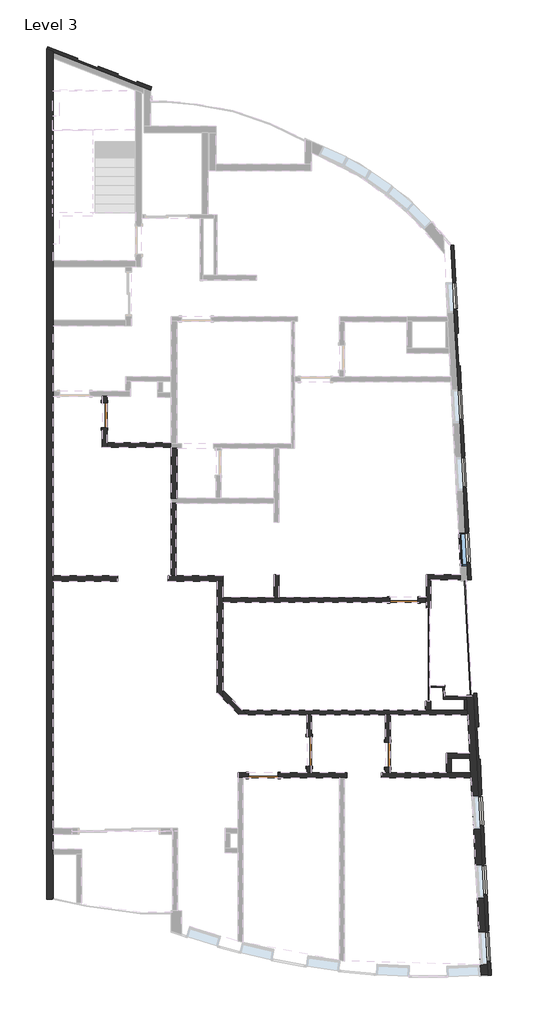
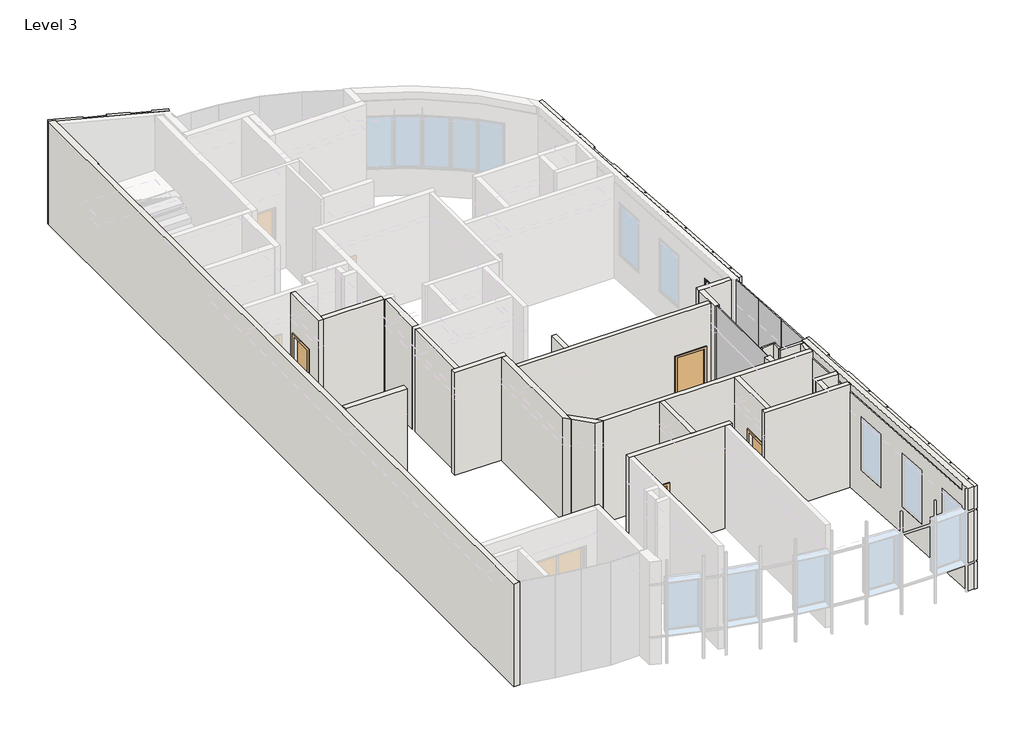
# One storey, part 2 of 5: 28 walls, 5 doors, 4 plates, 1 window.
"""IFC4 building model written with IfcOpenShell, lengths in millimetres."""

from ifc_helpers import new_model, si_unit, frame, origin, place, context, project, spatial, polyline, circle_curve, outline, extrude, faceted_brep, transform, mapped, element, save
from ifc_brep_helpers import plane_surface, cylinder_surface, revolved_surface, advanced_brep
from components import m_single_flush_0762_x_2134mm_8c18b9de, m_single_flush_0762_x_2134mm_1533e4c5, m_single_flush_0864_x_2032mm_5b632350, m_single_flush_0915_x_2134mm_138fd904, system_panel_glazed_de1ac752, system_panel_glazed_2b276406, system_panel_glazed_4e3138d7, wall_efae7c4e, wall_d5b73eeb, m_fixed_1000_x_1830mm_2_3397196e

model = new_model("IFC4")

# Units and contexts
model_context = context("Model", 3, world=origin())
ifc_project = project(units=[si_unit("LENGTHUNIT", "METRE", prefix="MILLI")], contexts=[model_context])

# Site, building, storey
site = spatial("IfcSite", under=ifc_project)
building = spatial("IfcBuilding", under=site)
storey = spatial("IfcBuildingStorey", under=building, Name="Level 3", Elevation=11500.0)

# Doors
placement = place(None, origin())
m_single_flush_0762_x_2134mm_shape = m_single_flush_0762_x_2134mm_8c18b9de(model_context)
element("IfcDoor", 1, ObjectType="M_Single-Flush : 0762 x 2134mm", at=placement, inside=storey, context=model_context, shape_type="MappedRepresentation", body=[
    mapped(m_single_flush_0762_x_2134mm_shape, transform((1524.9578776, 3975.8830582, 11500.0), x_axis=(0.0, 1.0, 0.0), y_axis=(-1.0, 0.0, 0.0), z_axis=(0.0, 0.0, 1.0))),
])
m_single_flush_0762_x_2134mm_2_shape = m_single_flush_0762_x_2134mm_1533e4c5(model_context)
element("IfcDoor", 2, ObjectType="M_Single-Flush : 0762 x 2134mm", at=placement, inside=storey, context=model_context, shape_type="MappedRepresentation", body=[
    mapped(m_single_flush_0762_x_2134mm_2_shape, transform((10205.2907737, -6412.7981953, 11500.0), x_axis=(0.0, -1.0, 0.0), y_axis=(1.0, 0.0, 0.0), z_axis=(0.0, 0.0, 1.0))),
])
m_single_flush_0864_x_2032mm_shape = m_single_flush_0864_x_2032mm_5b632350(model_context)
element("IfcDoor", 3, ObjectType="M_Single-Flush : 0864 x 2032mm", at=placement, inside=storey, context=model_context, shape_type="MappedRepresentation", body=[
    mapped(m_single_flush_0864_x_2032mm_shape, transform((10697.9578778, -1678.9547298, 11500.0), x_axis=(1.0, 0.0, 0.0), y_axis=(0.0, 1.0, 0.0), z_axis=(0.0, 0.0, 1.0))),
])
m_single_flush_0915_x_2134mm_shape = m_single_flush_0915_x_2134mm_138fd904(model_context)
element("IfcDoor", 4, ObjectType="M_Single-Flush : 0915 x 2134mm", at=placement, inside=storey, context=model_context, shape_type="MappedRepresentation", body=[
    mapped(m_single_flush_0915_x_2134mm_shape, transform((6387.7907737, -7048.7981953, 11500.0), x_axis=(-1.0, 0.0, 0.0), y_axis=(0.0, -1.0, 0.0), z_axis=(0.0, 0.0, 1.0))),
])
element("IfcDoor", 5, ObjectType="M_Single-Flush : 0915 x 2134mm", at=placement, inside=storey, context=model_context, shape_type="MappedRepresentation", body=[
    mapped(m_single_flush_0915_x_2134mm_shape, transform((7795.2909314, -6316.2981953, 11500.0), x_axis=(0.0, -1.0, 0.0), y_axis=(1.0, 0.0, 0.0), z_axis=(0.0, 0.0, 1.0))),
])

# Plates
system_panel_glazed_shape = system_panel_glazed_de1ac752(model_context)
element("IfcPlate", 6, ObjectType="System Panel : Glazed", at=placement, inside=storey, context=model_context, shape_type="MappedRepresentation", body=[
    mapped(system_panel_glazed_shape, transform((12744.4041239, -4004.5629241, 11500.0), x_axis=(-0.05083502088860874, 0.9987070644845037, 0.0), y_axis=(-0.9987070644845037, -0.05083502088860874, 0.0), z_axis=(0.0, 0.0, 1.0))),
])
element("IfcPlate", 7, ObjectType="System Panel : Glazed", at=placement, inside=storey, context=model_context, shape_type="MappedRepresentation", body=[
    mapped(system_panel_glazed_shape, transform((12685.4354997, -2846.0627293, 11500.0), x_axis=(-0.05083502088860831, 0.9987070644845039, 0.0), y_axis=(-0.9987070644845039, -0.05083502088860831, 0.0), z_axis=(0.0, 0.0, 1.0))),
])
system_panel_glazed_2_shape = system_panel_glazed_2b276406(model_context)
element("IfcPlate", 8, ObjectType="System Panel : Glazed", at=placement, inside=storey, context=model_context, shape_type="MappedRepresentation", body=[
    mapped(system_panel_glazed_2_shape, transform((12626.3225461, -1684.727034, 11500.0), x_axis=(-0.05083502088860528, 0.998707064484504, 0.0), y_axis=(-0.998707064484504, -0.05083502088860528, 0.0), z_axis=(0.0, 0.0, 1.0))),
])
system_panel_glazed_3_shape = system_panel_glazed_4e3138d7(model_context)
element("IfcPlate", 9, ObjectType="System Panel : Glazed", at=placement, inside=storey, context=model_context, shape_type="MappedRepresentation", body=[
    mapped(system_panel_glazed_3_shape, transform((11490.9685725, -3358.899384, 11500.0), x_axis=(0.0, 1.0, 0.0), y_axis=(-1.0, 0.0, 0.0), z_axis=(0.0, 0.0, 1.0))),
])

# Walls
element("IfcWall", 10, ObjectType="Generic - 15cm-gypsu-2boith", at=placement, inside=storey, context=model_context, shape_type="Brep", body=[
    faceted_brep([(11349.9578778, -1603.9547298, 11500.0), (11129.9578778, -1603.9547298, 11500.0), (11129.9578778, -1603.9547298, 13532.0), (10265.9578778, -1603.9547298, 13532.0), (10265.9578778, -1603.9547298, 11500.0), (6869.9578779, -1603.9547298, 11500.0), (6719.9578779, -1603.9547298, 11500.0), (5149.9578778, -1603.9547298, 11500.0), (5149.9578778, -1603.9547298, 15000.0), (6719.9578779, -1603.9547298, 15000.0), (6869.9578779, -1603.9547298, 15000.0), (11349.9578778, -1603.9547298, 15000.0), (11129.9578778, -1753.9547298, 13532.0), (11129.9578778, -1753.9547298, 11500.0), (11349.9578778, -1753.9547298, 11500.0), (11349.9578778, -1753.9547298, 15000.0), (5149.9578778, -1753.9547298, 15000.0), (5149.9578778, -1753.9547298, 11500.0), (10265.9578778, -1753.9547298, 11500.0), (10265.9578778, -1753.9547298, 13532.0)], [[[0, 1, 2, 3, 4, 5, 6, 7, 8, 9, 10, 11]], [[12, 13, 14, 15, 16, 17, 18, 19]], [[18, 17, 7, 6, 5, 4]], [[14, 13, 1, 0]], [[11, 10, 9, 8, 16, 15]], [[0, 11, 15, 14]], [[8, 7, 17, 16]], [[2, 1, 13, 12]], [[3, 2, 12, 19]], [[4, 3, 19, 18]]]),
])
element("IfcWall", 11, ObjectType="Generic - 15cm-gypsu-2boith", at=placement, inside=storey, context=model_context, shape_type="Brep", body=[
    faceted_brep([(12423.9334548, -903.8603265, 11500.0), (11379.9578778, -903.8603265, 11500.0), (11379.9578778, -903.8603265, 15000.0), (12423.9334548, -903.8603265, 15000.0), (12423.9334548, -1053.8603265, 11500.0), (12423.9334548, -1053.8603265, 15000.0), (11529.9578778, -1053.8603265, 15000.0), (11379.9578778, -1053.8603265, 15000.0), (11379.9578778, -1053.8603265, 11500.0), (11529.9578778, -1053.8603265, 11500.0)], [[[0, 1, 2, 3]], [[4, 5, 6, 7, 8, 9]], [[1, 0, 4, 9, 8]], [[3, 2, 7, 6, 5]], [[0, 3, 5, 4]], [[2, 1, 8, 7]]]),
])
element("IfcWall", 12, ObjectType="Generic - 15cm-gypsu-2boith", at=placement, inside=storey, context=model_context, shape_type="SweptSolid", body=[
    extrude(outline(polyline([(11379.9578778, -1933.9547288), (11379.9578778, -1053.8603265), (11529.9578778, -1053.8603265), (11529.9578778, -1933.9547288), (11379.9578778, -1933.9547288)])), frame((0.0, 0.0, 11500.0), z_axis=(0.0, 0.0, 1.0), x_axis=(1.0, 0.0, 0.0)), (0.0, 0.0, 1.0), 3500.0),
])
element("IfcWall", 13, ObjectType="Generic - 15cm-gypsu-2boith", at=placement, inside=storey, context=model_context, shape_type="SweptSolid", body=[
    extrude(outline(polyline([(3569.9578779, -933.1221936), (3569.9578779, 1276.8778064), (3719.9578779, 1276.8778064), (3719.9578779, -933.1221936), (3569.9578779, -933.1221936)])), frame((0.0, 0.0, 11500.0), z_axis=(0.0, 0.0, 1.0), x_axis=(1.0, 0.0, 0.0)), (0.0, 0.0, 1.0), 3500.0),
])
element("IfcWall", 14, ObjectType="Generic - 18cm-gypsu-2boith 2", at=placement, inside=storey, context=model_context, shape_type="Brep", body=[
    faceted_brep([(5149.9578778, -933.1221936, 11500.0), (3719.9578779, -933.1221936, 11500.0), (3569.9578779, -933.1221936, 11500.0), (3473.9578779, -933.1221936, 11500.0), (3473.9578779, -933.1221936, 15000.0), (3569.9578779, -933.1221936, 15000.0), (3719.9578779, -933.1221936, 15000.0), (5149.9578778, -933.1221936, 15000.0), (5149.9578778, -1113.1221936, 11500.0), (5149.9578778, -1113.1221936, 15000.0), (4969.9578778, -1113.1221936, 15000.0), (3473.9578779, -1113.1221936, 15000.0), (3473.9578779, -1113.1221936, 11500.0), (4969.9578778, -1113.1221936, 11500.0)], [[[0, 1, 2, 3, 4, 5, 6, 7]], [[8, 9, 10, 11, 12, 13]], [[3, 2, 1, 0, 8, 13, 12]], [[4, 3, 12, 11]], [[7, 6, 5, 4, 11, 10, 9]], [[0, 7, 9, 8]]]),
])
element("IfcWall", 15, ObjectType="Generic - 18cm-gypsu-2boith 2", at=placement, inside=storey, context=model_context, shape_type="Brep", body=[
    faceted_brep([(4969.9578778, -1113.1221936, 11500.0), (4969.9578778, -4517.9715169, 11500.0), (4969.9578778, -4517.9715169, 15000.0), (4969.9578778, -1113.1221936, 15000.0), (5149.9578778, -1113.1221936, 11500.0), (5149.9578778, -1113.1221936, 15000.0), (5149.9578778, -1603.9547298, 15000.0), (5149.9578778, -1753.9547298, 15000.0), (5149.9578778, -4443.9569428, 15000.0), (5149.9578778, -4699.8400417, 15000.0), (5149.9578778, -4699.8400417, 11500.0), (5149.9578778, -4443.9569428, 11500.0), (5149.9578778, -1753.9547298, 11500.0), (5149.9578778, -1603.9547298, 11500.0)], [[[0, 1, 2, 3]], [[4, 5, 6, 7, 8, 9, 10, 11, 12, 13]], [[1, 0, 4, 13, 12, 11, 10]], [[3, 2, 9, 8, 7, 6, 5]], [[2, 1, 10, 9]], [[0, 3, 5, 4]]]),
])
element("IfcWall", 16, ObjectType="Generic - 18cm-gypsu-2boith 2", at=placement, inside=storey, context=model_context, shape_type="Brep", body=[
    faceted_brep([(5149.9578778, -4699.8400417, 11500.0), (5643.7897147, -5198.7981953, 11500.0), (5643.7897147, -5198.7981953, 15000.0), (5149.9578778, -4699.8400417, 15000.0), (5149.9578778, -4443.9569428, 11500.0), (5149.9578778, -4443.9569428, 15000.0), (5748.5849662, -5048.7981953, 15000.0), (5897.04386, -5198.7981953, 15000.0), (5897.04386, -5198.7981953, 11500.0), (5748.5849662, -5048.7981953, 11500.0)], [[[0, 1, 2, 3]], [[4, 5, 6, 7, 8, 9]], [[1, 0, 4, 9, 8]], [[3, 2, 7, 6, 5]], [[0, 3, 5, 4]], [[2, 1, 8, 7]]]),
])
element("IfcWall", 17, ObjectType="Generic - 15cm-granit&gypsum", at=placement, inside=storey, context=model_context, shape_type="Brep", body=[
    faceted_brep([(12647.2976465, -5048.7981953, 11500.0), (12641.1322496, -5048.7981953, 11500.0), (12541.1322496, -5048.7981953, 11500.0), (11529.9578778, -5048.7981953, 11500.0), (11349.9578778, -5048.7981953, 11500.0), (5748.5849662, -5048.7981953, 11500.0), (5748.5849662, -5048.7981953, 15000.0), (11349.9578778, -5048.7981953, 15000.0), (11529.9578778, -5048.7981953, 15000.0), (12541.1322496, -5048.7981953, 15000.0), (12641.1322496, -5048.7981953, 15000.0), (12647.2976465, -5048.7981953, 15000.0), (12654.9327714, -5198.7981953, 11500.0), (12654.9327714, -5198.7981953, 15000.0), (10280.2907737, -5198.7981953, 15000.0), (10130.2907737, -5198.7981953, 15000.0), (7870.2909314, -5198.7981953, 15000.0), (7720.2909314, -5198.7981953, 15000.0), (5897.04386, -5198.7981953, 15000.0), (5897.04386, -5198.7981953, 11500.0), (7720.2909314, -5198.7981953, 11500.0), (7870.2909314, -5198.7981953, 11500.0), (10130.2907737, -5198.7981953, 11500.0), (10280.2907737, -5198.7981953, 11500.0)], [[[0, 1, 2, 3, 4, 5, 6, 7, 8, 9, 10, 11]], [[12, 13, 14, 15, 16, 17, 18, 19, 20, 21, 22, 23]], [[5, 4, 3, 2, 1, 0, 12, 23, 22, 21, 20, 19]], [[11, 10, 9, 8, 7, 6, 18, 17, 16, 15, 14, 13]], [[6, 5, 19, 18]], [[0, 11, 13, 12]]]),
])
element("IfcWall", 18, ObjectType="Generic - 15cm-gypsu-2boith", at=placement, inside=storey, context=model_context, shape_type="SweptSolid", body=[
    extrude(outline(polyline([(-6773.7981953, 13634.0), (-6773.7981953, 11500.0), (-6973.7981953, 11500.0), (-6973.7981953, 15000.0), (-5198.7981953, 15000.0), (-5198.7981953, 11500.0), (-5858.7981953, 11500.0), (-5858.7981953, 13634.0), (-6773.7981953, 13634.0)])), frame((7720.2909314, 0.0, 0.0), z_axis=(1.0, 0.0, 0.0), x_axis=(0.0, 1.0, 0.0)), (0.0, 0.0, 1.0), 150.0),
])
element("IfcWall", 19, ObjectType="Generic - 15cm-granit&gypsum", at=placement, inside=storey, context=model_context, shape_type="Brep", body=[
    faceted_brep([(12745.2817489, -6973.7981953, 11500.0), (12147.4732011, -6973.7981953, 11500.0), (11997.4732011, -6973.7981953, 11500.0), (10280.2907737, -6973.7981953, 11500.0), (10130.2907737, -6973.7981953, 11500.0), (10005.6168737, -6973.7981953, 11500.0), (10005.6168737, -6973.7981953, 15000.0), (10130.2907737, -6973.7981953, 15000.0), (10280.2907737, -6973.7981953, 15000.0), (11997.4732011, -6973.7981953, 15000.0), (12147.4732011, -6973.7981953, 15000.0), (12745.2817489, -6973.7981953, 15000.0), (12752.9168737, -7123.7981953, 11500.0), (12752.9168737, -7123.7981953, 15000.0), (10005.6168737, -7123.7981953, 15000.0), (10005.6168737, -7123.7981953, 11500.0)], [[[0, 1, 2, 3, 4, 5, 6, 7, 8, 9, 10, 11]], [[12, 13, 14, 15]], [[5, 4, 3, 2, 1, 0, 12, 15]], [[6, 5, 15, 14]], [[11, 10, 9, 8, 7, 6, 14, 13]], [[0, 11, 13, 12]]]),
])
element("IfcWall", 20, ObjectType="Generic - 15cm-gypsu-2boith", at=placement, inside=storey, context=model_context, shape_type="Brep", body=[
    faceted_brep([(12714.7412494, -6373.7981953, 11500.0), (11997.4732011, -6373.7981953, 11500.0), (11997.4732011, -6373.7981953, 15000.0), (12714.7412494, -6373.7981953, 15000.0), (12722.3763743, -6523.7981953, 11500.0), (12722.3763743, -6523.7981953, 15000.0), (12147.4732011, -6523.7981953, 15000.0), (11997.4732011, -6523.7981953, 15000.0), (11997.4732011, -6523.7981953, 11500.0), (12147.4732011, -6523.7981953, 11500.0)], [[[0, 1, 2, 3]], [[4, 5, 6, 7, 8, 9]], [[1, 0, 4, 9, 8]], [[3, 2, 7, 6, 5]], [[0, 3, 5, 4]], [[2, 1, 8, 7]]]),
])
element("IfcWall", 21, ObjectType="Generic - 15cm-gypsu-2boith", at=placement, inside=storey, context=model_context, shape_type="SweptSolid", body=[
    extrude(outline(polyline([(11997.4732011, -6973.7981953), (11997.4732011, -6523.7981953), (12147.4732011, -6523.7981953), (12147.4732011, -6973.7981953), (11997.4732011, -6973.7981953)])), frame((0.0, 0.0, 11500.0), z_axis=(0.0, 0.0, 1.0), x_axis=(1.0, 0.0, 0.0)), (0.0, 0.0, 1.0), 3500.0),
])
element("IfcWall", 22, ObjectType="Generic - 10cm-gypsu-2boith", at=placement, inside=storey, context=model_context, shape_type="Brep", body=[
    faceted_brep([(11904.953185, -4724.0941461, 11500.0), (12541.1322496, -4725.6672919, 11500.0), (12641.1322496, -4725.9145722, 11500.0), (12641.1322496, -4725.9145722, 15000.0), (12541.1322496, -4725.6672919, 15000.0), (11904.953185, -4724.0941461, 15000.0), (11899.8624455, -4624.081252, 11500.0), (11899.8624455, -4624.081252, 15000.0), (11949.9334783, -4624.2050678, 15000.0), (12641.1322496, -4625.9142665, 15000.0), (12641.1322496, -4625.9142665, 11500.0), (11949.9334783, -4624.2050678, 11500.0)], [[[0, 1, 2, 3, 4, 5]], [[6, 7, 8, 9, 10, 11]], [[2, 1, 0, 6, 11, 10]], [[5, 4, 3, 9, 8, 7]], [[3, 2, 10, 9]], [[0, 5, 7, 6]]]),
])
element("IfcWall", 23, ObjectType="Generic - 10cm-gypsu-2boith", at=placement, inside=storey, context=model_context, shape_type="Brep", body=[
    faceted_brep([(12641.1322496, -5048.7981953, 11500.0), (12641.1322496, -4927.672536, 11500.0), (12641.1322496, -4725.9145722, 11500.0), (12641.1322496, -4725.9145722, 14759.0), (12641.1322496, -4725.9145722, 15000.0), (12641.1322496, -5048.7981953, 15000.0), (12541.1322496, -5048.7981953, 11500.0), (12541.1322496, -5048.7981953, 15000.0), (12541.1322496, -4725.6672919, 15000.0), (12541.1322496, -4725.6672919, 11500.0), (12630.8613086, -4725.8891742, 11500.0)], [[[0, 1, 2, 3, 4, 5]], [[6, 7, 8, 9]], [[2, 1, 0, 6, 9, 10]], [[5, 4, 8, 7]], [[4, 3, 2, 10, 9, 8]], [[0, 5, 7, 6]]]),
])
element("IfcWall", 24, ObjectType="Antick", at=placement, inside=storey, context=model_context, shape_type="SweptSolid", body=[
    extrude(outline(polyline([(11899.8624455, -4624.081252), (11885.9208288, -4350.1836358), (11935.856182, -4347.6418848), (11949.9334783, -4624.2050678), (11899.8624455, -4624.081252)])), frame((0.0, 0.0, 11500.0), z_axis=(0.0, 0.0, 1.0), x_axis=(1.0, 0.0, 0.0)), (0.0, 0.0, 1.0), 3500.0),
])
element("IfcWall", 25, ObjectType="Antick", at=placement, inside=storey, context=model_context, shape_type="Brep", body=[
    faceted_brep([(11506.4121443, -4369.5009438, 11500.0), (11885.9208288, -4350.1836358, 11500.0), (11935.856182, -4347.6418848, 11500.0), (11955.8303233, -4346.6251844, 11500.0), (11955.8303233, -4346.6251844, 15000.0), (11935.856182, -4347.6418848, 15000.0), (11885.9208288, -4350.1836358, 15000.0), (11506.4121443, -4369.5009438, 15000.0), (11503.8703933, -4319.5655905, 11500.0), (11503.8703933, -4319.5655905, 15000.0), (11953.2885723, -4296.6898311, 15000.0), (11953.2885723, -4296.6898311, 11500.0)], [[[0, 1, 2, 3, 4, 5, 6, 7]], [[8, 9, 10, 11]], [[3, 2, 1, 0, 8, 11]], [[4, 3, 11, 10]], [[7, 6, 5, 4, 10, 9]], [[0, 7, 9, 8]]]),
])
element("IfcWall", 26, ObjectType="Generic - 18cm-gypsu-2boith 2", at=placement, inside=storey, context=model_context, shape_type="SweptSolid", body=[
    extrude(outline(polyline([(11529.9578778, -4783.8440392), (11529.9578778, -5048.7981953), (11349.9578778, -5048.7981953), (11349.9578778, -4783.8440392), (11529.9578778, -4783.8440392)])), frame((0.0, 0.0, 11500.0), z_axis=(0.0, 0.0, 1.0), x_axis=(1.0, 0.0, 0.0)), (0.0, 0.0, 1.0), 3500.0),
])
element("IfcWall", 27, ObjectType="Generic - 15cm-granit&gypsum", at=placement, inside=storey, context=model_context, shape_type="Brep", body=[
    faceted_brep([(1599.9578776, 4356.8830582, 13634.0), (1599.9578776, 4356.8830582, 11500.0), (1599.9578776, 4556.8830582, 11500.0), (1599.9578776, 4556.8830582, 15000.0), (1599.9578776, 3136.8778064, 15000.0), (1599.9578776, 2986.8778064, 15000.0), (1599.9578776, 2986.8778064, 11500.0), (1599.9578776, 3136.8778064, 11500.0), (1599.9578776, 3594.8830582, 11500.0), (1599.9578776, 3594.8830582, 13634.0), (1449.9578776, 4556.8830582, 11500.0), (1449.9578776, 4356.8830582, 11500.0), (1449.9578776, 4356.8830582, 13634.0), (1449.9578776, 3594.8830582, 13634.0), (1449.9578776, 3594.8830582, 11500.0), (1449.9578776, 2986.8778064, 11500.0), (1449.9578776, 2986.8778064, 15000.0), (1449.9578776, 4556.8830582, 15000.0)], [[[0, 1, 2, 3, 4, 5, 6, 7, 8, 9]], [[10, 11, 12, 13, 14, 15, 16, 17]], [[2, 1, 11, 10]], [[8, 7, 6, 15, 14]], [[5, 4, 3, 17, 16]], [[3, 2, 10, 17]], [[6, 5, 16, 15]], [[12, 11, 1, 0]], [[13, 12, 0, 9]], [[14, 13, 9, 8]]]),
])
element("IfcWall", 28, ObjectType="Generic - 18cm-gypsu-2boith 2", at=placement, inside=storey, context=model_context, shape_type="SweptSolid", body=[
    extrude(outline(polyline([(3569.9578779, 1426.8778064), (3569.9578779, 2956.8778064), (3749.9578779, 2956.8778064), (3749.9578779, 1426.8778064), (3569.9578779, 1426.8778064)])), frame((0.0, 0.0, 11500.0), z_axis=(0.0, 0.0, 1.0), x_axis=(1.0, 0.0, 0.0)), (0.0, 0.0, 1.0), 3500.0),
])
element("IfcWall", 29, ObjectType="Generic - 15cm-granit&gypsum", at=placement, inside=storey, context=model_context, shape_type="SweptSolid", body=[
    extrude(outline(polyline([(1599.9578776, 3136.8778064), (3549.9578779, 3136.8778064), (3549.9578779, 2986.8778064), (1599.9578776, 2986.8778064), (1599.9578776, 3136.8778064)])), frame((0.0, 0.0, 11500.0), z_axis=(0.0, 0.0, 1.0), x_axis=(1.0, 0.0, 0.0)), (0.0, 0.0, 1.0), 3500.0),
])
element("IfcWall", 30, ObjectType="Generic - 18cm-gypsu-2boith 2", at=placement, inside=storey, context=model_context, shape_type="SweptSolid", body=[
    extrude(outline(polyline([(-50.0421304, -933.1221936), (1933.9578781, -933.1221936), (1933.9578781, -1113.1221936), (-50.0421304, -1113.1221936), (-50.0421304, -933.1221936)])), frame((0.0, 0.0, 11500.0), z_axis=(0.0, 0.0, 1.0), x_axis=(1.0, 0.0, 0.0)), (0.0, 0.0, 1.0), 3500.0),
])
element("IfcWall", 31, ObjectType="Generic - 15cm-granit&gypsum", at=placement, inside=storey, context=model_context, shape_type="Brep", body=[
    faceted_brep([(5930.2907737, -6973.7981953, 13634.0), (5930.2907737, -6973.7981953, 11500.0), (5620.2907737, -6973.7981953, 11500.0), (5620.2907737, -6973.7981953, 15000.0), (7720.2909314, -6973.7981953, 15000.0), (7870.2909314, -6973.7981953, 15000.0), (8947.5168737, -6973.7981953, 15000.0), (8947.5168737, -6973.7981953, 11500.0), (7870.2909314, -6973.7981953, 11500.0), (7720.2909314, -6973.7981953, 11500.0), (6845.2907737, -6973.7981953, 11500.0), (6845.2907737, -6973.7981953, 13634.0), (5620.2907737, -7123.7981953, 11500.0), (5770.2907737, -7123.7981953, 11500.0), (5930.2907737, -7123.7981953, 11500.0), (5930.2907737, -7123.7981953, 13634.0), (6845.2907737, -7123.7981953, 13634.0), (6845.2907737, -7123.7981953, 11500.0), (8720.2907737, -7123.7981953, 11500.0), (8870.2907737, -7123.7981953, 11500.0), (8947.5168737, -7123.7981953, 11500.0), (8947.5168737, -7123.7981953, 15000.0), (8870.2907737, -7123.7981953, 15000.0), (8720.2907737, -7123.7981953, 15000.0), (5770.2907737, -7123.7981953, 15000.0), (5620.2907737, -7123.7981953, 15000.0)], [[[0, 1, 2, 3, 4, 5, 6, 7, 8, 9, 10, 11]], [[12, 13, 14, 15, 16, 17, 18, 19, 20, 21, 22, 23, 24, 25]], [[2, 1, 14, 13, 12]], [[10, 9, 8, 7, 20, 19, 18, 17]], [[6, 5, 4, 3, 25, 24, 23, 22, 21]], [[7, 6, 21, 20]], [[3, 2, 12, 25]], [[17, 16, 11, 10]], [[16, 15, 0, 11]], [[15, 14, 1, 0]]]),
])
element("IfcWall", 32, ObjectType="Generic - 15cm-granit&gypsum", at=placement, inside=storey, context=model_context, shape_type="SweptSolid", body=[
    extrude(outline(polyline([(6719.9578779, -1603.9547298), (6719.9578779, -903.9547298), (6869.9578779, -903.9547298), (6869.9578779, -1603.9547298), (6719.9578779, -1603.9547298)])), frame((0.0, 0.0, 11500.0), z_axis=(0.0, 0.0, 1.0), x_axis=(1.0, 0.0, 0.0)), (0.0, 0.0, 1.0), 3500.0),
])
wall_shape = wall_efae7c4e(model_context)
element("IfcWall", 33, ObjectType="kamposite1 : kamposite", at=placement, inside=storey, context=model_context, shape_type="MappedRepresentation", body=[
    mapped(wall_shape, transform((-2.0334008, 39.9482826, 2000.0), x_axis=(1.0, 0.0, 0.0), y_axis=(0.0, 1.0, 0.0), z_axis=(0.0, 0.0, 1.0))),
])
wall_2_shape = wall_d5b73eeb(model_context)
element("IfcWall", 34, ObjectType="kamposite3 : kamposite2", at=placement, inside=storey, context=model_context, shape_type="MappedRepresentation", body=[
    mapped(wall_2_shape, transform((0.0, 0.0, 2000.0), x_axis=(1.0, 0.0, 0.0), y_axis=(0.0, 1.0, 0.0), z_axis=(0.0, 0.0, 1.0))),
])
element("IfcWall", 35, ObjectType="Generic - 15cm-granit 2", at=placement, inside=storey, context=model_context, shape_type="SweptSolid", body=[
    extrude(outline(polyline([(-6793.7981953, 13634.0), (-6793.7981953, 11500.0), (-6973.7981953, 11500.0), (-6973.7981953, 15000.0), (-5198.7981953, 15000.0), (-5198.7981953, 11500.0), (-6031.7981953, 11500.0), (-6031.7981953, 13634.0), (-6793.7981953, 13634.0)])), frame((10130.2907737, 0.0, 0.0), z_axis=(1.0, 0.0, 0.0), x_axis=(0.0, 1.0, 0.0)), (0.0, 0.0, 1.0), 150.0),
])
element("IfcWall", 36, ObjectType="Generic - 20cm-gypsum", at=placement, inside=storey, context=model_context, shape_type="Brep", body=[
    faceted_brep([(-50.0421304, -10845.40247, 11500.0), (-50.0421304, -9462.1185157, 11500.0), (-50.0421304, -9312.1185157, 11500.0), (-50.0421304, -8842.2362629, 11500.0), (-50.0421304, -8662.2362629, 11500.0), (-50.0421304, -1113.1221936, 11500.0), (-50.0421304, -933.1221936, 11500.0), (-50.0421304, 4556.8830582, 11500.0), (-50.0421304, 4706.8830582, 11500.0), (-50.0421304, 6706.8748838, 11500.0), (-50.0421304, 6886.8748838, 11500.0), (-50.0421304, 8516.8748746, 11500.0), (-50.0421304, 8696.8748746, 11500.0), (-50.0421304, 14901.0479686, 11500.0), (-50.0421304, 15115.5710671, 11500.0), (-50.0421304, 15115.5710671, 15000.0), (-50.0421304, 14901.0479686, 15000.0), (-50.0421304, 12688.8107611, 15000.0), (-50.0421304, 12688.8107611, 14759.0), (-50.0421304, -10787.9093736, 14759.0), (-50.0421304, -10787.9093736, 15000.0), (-50.0421304, -10845.40247, 15000.0), (-250.0421304, 15193.1607555, 11500.0), (-250.0421304, -10845.40247, 11500.0), (-250.0421304, -10845.40247, 15000.0), (-250.0421304, 15193.1607555, 15000.0), (-80.0421304, -10781.5326767, 15000.0), (-80.0421304, 12688.8107611, 15000.0), (-80.0421304, 12688.8107611, 14759.0), (-80.0421304, -10781.5326767, 14759.0)], [[[0, 1, 2, 3, 4, 5, 6, 7, 8, 9, 10, 11, 12, 13, 14, 15, 16, 17, 18, 19, 20, 21]], [[22, 23, 24, 25]], [[14, 13, 12, 11, 10, 9, 8, 7, 6, 5, 4, 3, 2, 1, 0, 23, 22]], [[25, 24, 21, 20, 26, 27, 17, 16, 15]], [[0, 21, 24, 23]], [[15, 14, 22, 25]], [[28, 29, 19, 18]], [[29, 26, 20, 19]], [[29, 28, 27, 26]], [[27, 28, 18, 17]]]),
])
element("IfcWall", 37, ObjectType="Generic - 20cm-gypsum", at=placement, inside=storey, context=model_context, shape_type="AdvancedBrep", body=[
    advanced_brep(
    [(12624.0178131, -4591.441561, 11500.0), (12630.8613086, -4725.8891742, 11500.0), (12630.8613086, -4725.8891742, 14759.0), (12624.0178131, -4591.441561, 14759.0), (12641.1322496, -4927.672536, 11500.0), (12647.2976465, -5048.7981953, 11500.0), (12654.9327714, -5198.7981953, 11500.0), (12714.7412494, -6373.7981953, 11500.0), (12722.3763743, -6523.7981953, 11500.0), (12745.2817489, -6973.7981953, 11500.0), (12752.9168737, -7123.7981953, 11500.0), (13044.0399551, -12843.2151043, 11500.0), (13060.3079076, -13162.8160173, 11500.0), (13060.3079076, -13162.8160173, 12401.1018524), (13059.0369746, -13137.84721, 12401.1018524), (13059.0369746, -13137.84721, 12451.1018524), (13060.3079076, -13162.8160173, 12451.1018524), (13060.3079076, -13162.8160173, 14195.0), (13059.0369746, -13137.84721, 14195.0), (13059.0369746, -13137.84721, 14245.0), (13060.3079076, -13162.8160173, 14245.0), (13060.3079076, -13162.8160173, 15000.0), (13045.5650765, -12873.1777067, 15000.0), (13045.5650765, -12873.1777067, 14759.0), (13044.0399551, -12843.2151043, 14759.0), (12641.1322496, -4927.672536, 14759.0), (13044.1204917, -12844.7973291, 12400.0), (12993.2854708, -11846.0902646, 12400.0), (12993.2854708, -11846.0902646, 14230.0), (13044.1204917, -12844.7973291, 14230.0), (12939.9086989, -10797.4478469, 12400.0), (12889.073678, -9798.7407824, 12400.0), (12889.073678, -9798.7407824, 14230.0), (12939.9086989, -10797.4478469, 14230.0), (12832.6468048, -8690.1759409, 12400.0), (12781.8117839, -7691.4688764, 12400.0), (12781.8117839, -7691.4688764, 14230.0), (12832.6468048, -8690.1759409, 14230.0), (12823.759226, -4581.2745568, 15000.0), (13259.9103282, -13149.9183632, 15000.0), (13259.9103282, -13149.9183632, 14245.0), (13258.6392504, -13124.9467139, 14245.0), (13258.6392504, -13124.9467139, 14195.0), (13259.9103282, -13149.9183632, 14195.0), (13259.9103282, -13149.9183632, 12451.1018524), (13258.6392504, -13124.9467139, 12451.1018524), (13258.6392504, -13124.9467139, 12401.1018524), (13259.9103282, -13149.9183632, 12401.1018524), (13259.9103282, -13149.9183632, 11500.0), (12823.759226, -4581.2745568, 11500.0), (13193.0268837, -11835.9232605, 12400.0), (13243.8619046, -12834.6303249, 12400.0), (13243.8619046, -12834.6303249, 14230.0), (13193.0268837, -11835.9232605, 14230.0), (13088.8150909, -9788.5737783, 12400.0), (13139.6501118, -10787.2808427, 12400.0), (13139.6501118, -10787.2808427, 14230.0), (13088.8150909, -9788.5737783, 14230.0), (12981.5531968, -7681.3018722, 12400.0), (13032.3882177, -8680.0089367, 12400.0), (13032.3882177, -8680.0089367, 14230.0), (12981.5531968, -7681.3018722, 14230.0), (12653.9790251, -4589.9165104, 15000.0), (13075.5106422, -12871.3452698, 15000.0), (12641.1322496, -4725.9145722, 11500.0), (12653.9790251, -4589.9165104, 14759.0), (12641.1322496, -4725.9145722, 14759.0), (13075.5106422, -12871.3452698, 14759.0)],
    [
        (0, 1),
        (1, 2),
        (2, 3),
        (3, 0),
        (4, 5),
        (5, 6),
        (6, 7),
        (7, 8),
        (8, 9),
        (9, 10),
        (10, 11),
        (11, 12),
        (12, 13),
        (13, 14),
        (14, 15),
        (15, 16),
        (16, 17),
        (17, 18),
        (18, 19),
        (19, 20),
        (20, 21),
        (21, 22),
        (22, 23),
        (23, 24),
        (24, 25),
        (25, 4),
        (26, 27),
        (27, 28),
        (28, 29),
        (29, 26),
        (30, 31),
        (31, 32),
        (32, 33),
        (33, 30),
        (34, 35),
        (35, 36),
        (36, 37),
        (37, 34),
        (38, 39),
        (39, 40),
        (40, 41),
        (41, 42),
        (42, 43),
        (43, 44),
        (44, 45),
        (45, 46),
        (46, 47),
        (47, 48),
        (48, 49),
        (49, 38),
        (50, 51),
        (51, 52),
        (52, 53),
        (53, 50),
        (54, 55),
        (55, 56),
        (56, 57),
        (57, 54),
        (58, 59),
        (59, 60),
        (60, 61),
        (61, 58),
        (38, 62),
        (62, 63),
        (63, 22, circle_curve(frame((11609.3245394, 10843.3737526, 15000.0), z_axis=(0.0, 0.0, -1.0), x_axis=(1.0, 0.0, 0.0)), 23760.0)),
        (21, 39, circle_curve(frame((11609.3245394, 10843.3737526, 15000.0), z_axis=(0.0, 0.0, 1.0), x_axis=(-0.33468074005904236, -0.942331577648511, 0.0)), 24050.0)),
        (48, 12, circle_curve(frame((11609.3245394, 10843.3737526, 11500.0), z_axis=(0.0, 0.0, -1.0), x_axis=(-0.33468074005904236, -0.942331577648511, 0.0)), 24050.0)),
        (4, 64),
        (64, 1),
        (0, 49),
        (3, 65),
        (65, 62),
        (20, 40, circle_curve(frame((11609.3245394, 10843.3737526, 14245.0), z_axis=(0.0, 0.0, 1.0), x_axis=(-0.33468074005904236, -0.942331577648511, 0.0)), 24050.0)),
        (47, 13, circle_curve(frame((11609.3245394, 10843.3737526, 12401.1018524), z_axis=(0.0, 0.0, -1.0), x_axis=(-0.33468074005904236, -0.942331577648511, 0.0)), 24050.0)),
        (16, 44, circle_curve(frame((11609.3245394, 10843.3737526, 12451.1018524), z_axis=(0.0, 0.0, 1.0), x_axis=(-0.33468074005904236, -0.942331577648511, 0.0)), 24050.0)),
        (43, 17, circle_curve(frame((11609.3245394, 10843.3737526, 14195.0), z_axis=(0.0, 0.0, -1.0), x_axis=(-0.33468074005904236, -0.942331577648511, 0.0)), 24050.0)),
        (50, 27),
        (26, 51),
        (53, 28),
        (52, 29),
        (54, 31),
        (30, 55),
        (57, 32),
        (56, 33),
        (58, 35),
        (34, 59),
        (61, 36),
        (60, 37),
        (25, 66),
        (66, 64),
        (66, 2),
        (15, 45, circle_curve(frame((11609.3245394, 10843.3737526, 12451.1018524), z_axis=(0.0, 0.0, 1.0), x_axis=(0.06863142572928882, -0.9976420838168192, 0.0)), 24025.0)),
        (46, 14, circle_curve(frame((11609.3245394, 10843.3737526, 12401.1018524), z_axis=(0.0, 0.0, -1.0), x_axis=(0.06863142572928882, -0.9976420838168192, 0.0)), 24025.0)),
        (19, 41, circle_curve(frame((11609.3245394, 10843.3737526, 14245.0), z_axis=(0.0, 0.0, 1.0), x_axis=(0.06863142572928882, -0.9976420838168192, 0.0)), 24025.0)),
        (42, 18, circle_curve(frame((11609.3245394, 10843.3737526, 14195.0), z_axis=(0.0, 0.0, -1.0), x_axis=(0.06863142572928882, -0.9976420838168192, 0.0)), 24025.0)),
        (67, 65),
        (23, 67, circle_curve(frame((11609.3245394, 10843.3737526, 14759.0), z_axis=(0.0, 0.0, 1.0), x_axis=(1.0, 0.0, 0.0)), 23760.0)),
        (67, 63),
    ],
    [
        plane_surface(frame((13052.1146146, -13001.8502213, 15000.0), z_axis=(-0.9987070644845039, -0.05083502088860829, 0.0), x_axis=(-0.05083502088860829, 0.9987070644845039, 0.0))),
        plane_surface(frame((13251.8560275, -12991.6832171, 15000.0), z_axis=(0.9987070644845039, 0.05083502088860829, 0.0), x_axis=(0.05083502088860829, -0.9987070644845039, 0.0))),
        plane_surface(frame((13052.1146146, -13001.8502213, 15000.0), z_axis=(0.0, 0.0, 1.0), x_axis=(0.998707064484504, 0.050835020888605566, 0.0))),
        plane_surface(frame((12624.0178131, -4591.441561, 11500.0), z_axis=(0.0, 0.0, -1.0), x_axis=(0.998707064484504, 0.050835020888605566, 0.0))),
        plane_surface(frame((12624.0178131, -4591.441561, 15000.0), z_axis=(-0.050835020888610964, 0.9987070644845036, 0.0), x_axis=(0.9987070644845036, 0.050835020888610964, 0.0))),
        cylinder_surface(frame((11609.3245394, 10843.3737526, 11500.0), z_axis=(0.0, 0.0, 1.0), x_axis=(-0.33468074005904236, -0.942331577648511, 0.0)), 24050.0),
        plane_surface(frame((13193.0268837, -11835.9232605, 12400.0), z_axis=(0.0, 0.0, 1.0), x_axis=(-0.998707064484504, -0.050835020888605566, 0.0))),
        plane_surface(frame((13193.0268837, -11835.9232605, 14230.0), z_axis=(0.050835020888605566, -0.998707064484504, 0.0), x_axis=(-0.998707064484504, -0.050835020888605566, 0.0))),
        plane_surface(frame((13243.8619046, -12834.6303249, 14230.0), z_axis=(0.0, 0.0, -1.0), x_axis=(-0.998707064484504, -0.050835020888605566, 0.0))),
        plane_surface(frame((13243.8619046, -12834.6303249, 12400.0), z_axis=(-0.050835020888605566, 0.998707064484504, 0.0), x_axis=(-0.998707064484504, -0.050835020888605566, 0.0))),
        plane_surface(frame((13088.8150909, -9788.5737783, 12400.0), z_axis=(0.0, 0.0, 1.0), x_axis=(-0.998707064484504, -0.050835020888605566, 0.0))),
        plane_surface(frame((13088.8150909, -9788.5737783, 14230.0), z_axis=(0.050835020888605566, -0.998707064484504, 0.0), x_axis=(-0.998707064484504, -0.050835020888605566, 0.0))),
        plane_surface(frame((13139.6501118, -10787.2808427, 14230.0), z_axis=(0.0, 0.0, -1.0), x_axis=(-0.998707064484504, -0.050835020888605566, 0.0))),
        plane_surface(frame((13139.6501118, -10787.2808427, 12400.0), z_axis=(-0.050835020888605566, 0.998707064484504, 0.0), x_axis=(-0.998707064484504, -0.050835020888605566, 0.0))),
        plane_surface(frame((12981.5531968, -7681.3018722, 12400.0), z_axis=(0.0, 0.0, 1.0), x_axis=(-0.998707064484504, -0.050835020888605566, 0.0))),
        plane_surface(frame((12981.5531968, -7681.3018722, 14230.0), z_axis=(0.050835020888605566, -0.998707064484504, 0.0), x_axis=(-0.998707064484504, -0.050835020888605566, 0.0))),
        plane_surface(frame((13032.3882177, -8680.0089367, 14230.0), z_axis=(0.0, 0.0, -1.0), x_axis=(-0.998707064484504, -0.050835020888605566, 0.0))),
        plane_surface(frame((13032.3882177, -8680.0089367, 12400.0), z_axis=(-0.050835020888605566, 0.998707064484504, 0.0), x_axis=(-0.998707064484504, -0.050835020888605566, 0.0))),
        plane_surface(frame((12641.1322496, -4755.8842521, 11500.0), z_axis=(-1.0, 0.0, 0.0), x_axis=(0.0, 1.0, 0.0))),
        plane_surface(frame((11949.6861987, -4724.204762, 11500.0), z_axis=(-0.002472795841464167, -0.9999969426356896, 0.0), x_axis=(0.9999969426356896, -0.002472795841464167, 0.0))),
        plane_surface(frame((11609.3245394, 10843.3737526, 12451.1018524), z_axis=(0.0, 0.0, -1.0000000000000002), x_axis=(0.06863142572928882, -0.9976420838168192, 0.0))),
        plane_surface(frame((11609.3245394, 10843.3737526, 12401.1018524), z_axis=(0.0, 0.0, 1.0000000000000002), x_axis=(0.06863142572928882, -0.9976420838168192, 0.0))),
        cylinder_surface(frame((11609.3245394, 10843.3737526, 12426.1018524), z_axis=(0.0, 0.0, -1.0), x_axis=(0.06863142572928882, -0.9976420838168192, 0.0)), 24025.0),
        plane_surface(frame((11609.3245394, 10843.3737526, 14245.0), z_axis=(0.0, 0.0, -1.0000000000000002), x_axis=(0.06863142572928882, -0.9976420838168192, 0.0))),
        plane_surface(frame((11609.3245394, 10843.3737526, 14195.0), z_axis=(0.0, 0.0, 1.0000000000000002), x_axis=(0.06863142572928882, -0.9976420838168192, 0.0))),
        cylinder_surface(frame((11609.3245394, 10843.3737526, 14220.0), z_axis=(0.0, 0.0, -1.0), x_axis=(0.06863142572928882, -0.9976420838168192, 0.0)), 24025.0),
        plane_surface(frame((-80.0421304, 14944.8648867, 14759.0), z_axis=(0.0, 0.0, 1.0), x_axis=(0.9323005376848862, -0.36168454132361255, 0.0))),
        plane_surface(frame((12653.9790251, -4589.9165104, 14759.0), z_axis=(-0.9987070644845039, -0.05083502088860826, 0.0), x_axis=(0.0, 0.0, 1.0))),
        revolved_surface(polyline([(35369.3245394, 10843.3737526, 14759.0), (35369.3245394, 10843.3737526, 15000.0)]), (11609.3245394, 10843.3737526, 15000.0), (0.0, 0.0, -1.0)),
    ],
    [
        (0, [[1, 2, 3, 4]]),
        (0, [[5, 6, 7, 8, 9, 10, 11, 12, 13, 14, 15, 16, 17, 18, 19, 20, 21, 22, 23, 24, 25, 26], [27, 28, 29, 30], [31, 32, 33, 34], [35, 36, 37, 38]]),
        (1, [[39, 40, 41, 42, 43, 44, 45, 46, 47, 48, 49, 50], [51, 52, 53, 54], [55, 56, 57, 58], [59, 60, 61, 62]]),
        (2, [[-39, 63, 64, 65, -22, 66]]),
        (3, [[-49, 67, -12, -11, -10, -9, -8, -7, -6, -5, 68, 69, -1, 70]]),
        (4, [[-50, -70, -4, 71, 72, -63]]),
        (5, [[-66, -21, 73, -40]]),
        (5, [[-67, -48, 74, -13]]),
        (5, [[75, -44, 76, -17]]),
        (6, [[-51, 77, -27, 78]]),
        (7, [[-54, 79, -28, -77]]),
        (8, [[-53, 80, -29, -79]]),
        (9, [[-52, -78, -30, -80]]),
        (10, [[-55, 81, -31, 82]]),
        (11, [[-58, 83, -32, -81]]),
        (12, [[-57, 84, -33, -83]]),
        (13, [[-56, -82, -34, -84]]),
        (14, [[-59, 85, -35, 86]]),
        (15, [[-62, 87, -36, -85]]),
        (16, [[-61, 88, -37, -87]]),
        (17, [[-60, -86, -38, -88]]),
        (18, [[-68, -26, 89, 90]]),
        (19, [[-69, -90, 91, -2]]),
        (20, [[92, -45, -75, -16]]),
        (21, [[93, -14, -74, -47]]),
        (22, [[-92, -15, -93, -46]]),
        (23, [[94, -41, -73, -20]]),
        (24, [[95, -18, -76, -43]]),
        (25, [[-94, -19, -95, -42]]),
        (26, [[96, -71, -3, -91, -89, -25, -24, 97]]),
        (27, [[-96, 98, -64, -72]]),
        (28, [[-98, -97, -23, -65]]),
    ],
),
])

# Window
m_fixed_1000_x_1830mm_2_shape = m_fixed_1000_x_1830mm_2_3397196e(model_context)
element("IfcWindow", 38, ObjectType="M_Fixed : 1000 x 1830mm 2", at=placement, inside=storey, context=model_context, shape_type="MappedRepresentation", body=[
    mapped(m_fixed_1000_x_1830mm_2_shape, transform((12510.0987492, -130.5055762, 12095.0), x_axis=(-0.05083502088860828, 0.9987070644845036, 0.0), y_axis=(-0.9987070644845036, -0.05083502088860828, 0.0), z_axis=(0.0, 0.0, 1.0))),
])

save(model, "model.ifc")
